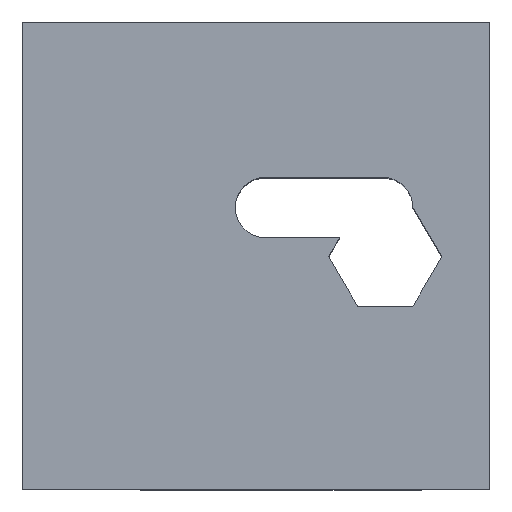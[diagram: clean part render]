
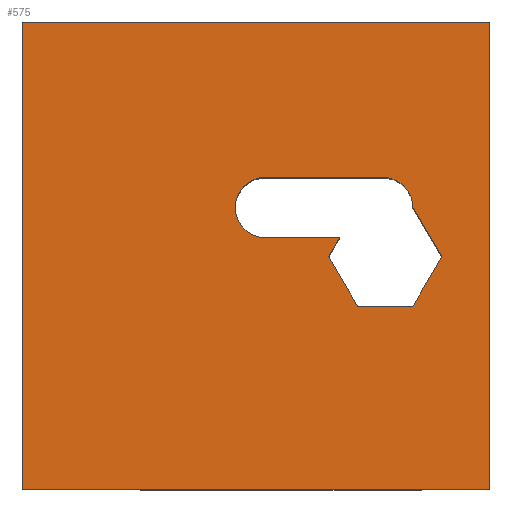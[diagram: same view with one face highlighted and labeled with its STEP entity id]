
A CAD part, top view. The second image highlights one B-rep face of the part: STEP entity #575.
In plain terms, the highlighted planar face has unit normal (0, 0, 1).
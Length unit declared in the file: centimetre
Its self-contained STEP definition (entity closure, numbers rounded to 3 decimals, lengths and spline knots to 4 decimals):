
#2 = CARTESIAN_POINT ( 'NONE',  ( 0., 1000., 1000. ) ) ;
#9 = DIRECTION ( 'NONE',  ( 0., 0., 1. ) ) ;
#11 = DIRECTION ( 'NONE',  ( 0., 1., 0. ) ) ;
#12 = DIRECTION ( 'NONE',  ( 1., 0., 0. ) ) ;
#17 = VECTOR ( 'NONE', #966, 100. ) ;
#20 = CARTESIAN_POINT ( 'NONE',  ( 717.5525, 602.9808, 1000. ) ) ;
#22 = VERTEX_POINT ( 'NONE', #287 ) ;
#31 = CARTESIAN_POINT ( 'NONE',  ( 1000., 0., 1000. ) ) ;
#41 = EDGE_LOOP ( 'NONE', ( #1133, #1185, #568, #698 ) ) ;
#49 = DIRECTION ( 'NONE',  ( 0.505, 0.863, 0. ) ) ;
#52 = EDGE_CURVE ( 'NONE', #251, #521, #955, .T. ) ;
#55 = CARTESIAN_POINT ( 'NONE',  ( 771.0114, 667.8246, 1000. ) ) ;
#115 = EDGE_CURVE ( 'NONE', #1137, #182, #1243, .T. ) ;
#128 = EDGE_CURVE ( 'NONE', #771, #1166, #527, .T. ) ;
#135 = EDGE_LOOP ( 'NONE', ( #906, #718, #593, #606, #556, #407, #1061, #1141, #1178 ) ) ;
#148 = EDGE_CURVE ( 'NONE', #1034, #1075, #1218, .T. ) ;
#152 = EDGE_CURVE ( 'NONE', #22, #1209, #604, .T. ) ;
#182 = VERTEX_POINT ( 'NONE', #416 ) ;
#202 = CARTESIAN_POINT ( 'NONE',  ( 835.8552, 602.9808, 1000. ) ) ;
#215 = DIRECTION ( 'NONE',  ( -0.509, 0.86, 0. ) ) ;
#251 = VERTEX_POINT ( 'NONE', #643 ) ;
#287 = CARTESIAN_POINT ( 'NONE',  ( 898.026, 497.979, 1000. ) ) ;
#314 = CIRCLE ( 'NONE', #400, 64.8438 ) ;
#318 = EDGE_CURVE ( 'NONE', #1207, #251, #1068, .T. ) ;
#322 = DIRECTION ( 'NONE',  ( 0., -1., 0. ) ) ;
#335 = LINE ( 'NONE', #619, #1305 ) ;
#381 = VECTOR ( 'NONE', #931, 100. ) ;
#400 = AXIS2_PLACEMENT_3D ( 'NONE', #640, #9, #835 ) ;
#406 = VECTOR ( 'NONE', #11, 100. ) ;
#407 = ORIENTED_EDGE ( 'NONE', *, *, #844, .F. ) ;
#410 = DIRECTION ( 'NONE',  ( 0., 0., 1. ) ) ;
#416 = CARTESIAN_POINT ( 'NONE',  ( 655.1186, 497.979, 1000. ) ) ;
#429 = CARTESIAN_POINT ( 'NONE',  ( 0., 1000., 1000. ) ) ;
#440 = DIRECTION ( 'NONE',  ( 1., 0., 0. ) ) ;
#480 = VECTOR ( 'NONE', #49, 100. ) ;
#515 = CARTESIAN_POINT ( 'NONE',  ( 678.9964, 538.137, 1000. ) ) ;
#521 = VERTEX_POINT ( 'NONE', #706 ) ;
#527 = LINE ( 'NONE', #429, #1313 ) ;
#536 = DIRECTION ( 'NONE',  ( -1., 0., 0. ) ) ;
#556 = ORIENTED_EDGE ( 'NONE', *, *, #115, .F. ) ;
#562 = LINE ( 'NONE', #1084, #480 ) ;
#568 = ORIENTED_EDGE ( 'NONE', *, *, #642, .T. ) ;
#575 = ADVANCED_FACE ( 'NONE', ( #689, #1107 ), #800, .T. ) ;
#588 = VERTEX_POINT ( 'NONE', #820 ) ;
#593 = ORIENTED_EDGE ( 'NONE', *, *, #148, .F. ) ;
#604 = LINE ( 'NONE', #715, #789 ) ;
#606 = ORIENTED_EDGE ( 'NONE', *, *, #992, .F. ) ;
#619 = CARTESIAN_POINT ( 'NONE',  ( 655.1186, 497.979, 1000. ) ) ;
#620 = LINE ( 'NONE', #1044, #1104 ) ;
#640 = CARTESIAN_POINT ( 'NONE',  ( 771.0114, 602.9808, 1000. ) ) ;
#641 = CARTESIAN_POINT ( 'NONE',  ( 1000., 1000., 1000. ) ) ;
#642 = EDGE_CURVE ( 'NONE', #687, #771, #827, .T. ) ;
#643 = CARTESIAN_POINT ( 'NONE',  ( 520.4061, 667.8246, 1000. ) ) ;
#677 = LINE ( 'NONE', #1201, #1000 ) ;
#684 = DIRECTION ( 'NONE',  ( 1., 0., 0. ) ) ;
#687 = VERTEX_POINT ( 'NONE', #31 ) ;
#689 = FACE_BOUND ( 'NONE', #135, .T. ) ;
#698 = ORIENTED_EDGE ( 'NONE', *, *, #128, .T. ) ;
#706 = CARTESIAN_POINT ( 'NONE',  ( 520.4061, 538.137, 1000. ) ) ;
#708 = CARTESIAN_POINT ( 'NONE',  ( 0., 1000., 1000. ) ) ;
#715 = CARTESIAN_POINT ( 'NONE',  ( 898.026, 497.979, 1000. ) ) ;
#718 = ORIENTED_EDGE ( 'NONE', *, *, #1098, .F. ) ;
#727 = EDGE_CURVE ( 'NONE', #588, #687, #620, .T. ) ;
#730 = CARTESIAN_POINT ( 'NONE',  ( 717.5525, 391.8114, 1000. ) ) ;
#759 = CARTESIAN_POINT ( 'NONE',  ( 717.5525, 391.8114, 1000. ) ) ;
#771 = VERTEX_POINT ( 'NONE', #980 ) ;
#789 = VECTOR ( 'NONE', #215, 100. ) ;
#800 = PLANE ( 'NONE',  #1338 ) ;
#820 = CARTESIAN_POINT ( 'NONE',  ( 0., 0., 1000. ) ) ;
#827 = LINE ( 'NONE', #641, #406 ) ;
#835 = DIRECTION ( 'NONE',  ( 1., 0., 0. ) ) ;
#844 = EDGE_CURVE ( 'NONE', #521, #1137, #677, .T. ) ;
#876 = VECTOR ( 'NONE', #12, 100. ) ;
#895 = EDGE_CURVE ( 'NONE', #1209, #1207, #314, .T. ) ;
#906 = ORIENTED_EDGE ( 'NONE', *, *, #152, .F. ) ;
#931 = DIRECTION ( 'NONE',  ( -0.511, -0.86, 0. ) ) ;
#955 = CIRCLE ( 'NONE', #1303, 64.8438 ) ;
#965 = EDGE_CURVE ( 'NONE', #1166, #588, #1258, .T. ) ;
#966 = DIRECTION ( 'NONE',  ( -1., 0., 0. ) ) ;
#979 = CARTESIAN_POINT ( 'NONE',  ( 835.8552, 391.8114, 1000. ) ) ;
#980 = CARTESIAN_POINT ( 'NONE',  ( 1000., 1000., 1000. ) ) ;
#987 = CARTESIAN_POINT ( 'NONE',  ( 520.4061, 602.9808, 1000. ) ) ;
#992 = EDGE_CURVE ( 'NONE', #182, #1034, #335, .T. ) ;
#1000 = VECTOR ( 'NONE', #1096, 100. ) ;
#1024 = VECTOR ( 'NONE', #322, 100. ) ;
#1034 = VERTEX_POINT ( 'NONE', #759 ) ;
#1044 = CARTESIAN_POINT ( 'NONE',  ( 0., 0., 1000. ) ) ;
#1061 = ORIENTED_EDGE ( 'NONE', *, *, #52, .F. ) ;
#1068 = LINE ( 'NONE', #55, #17 ) ;
#1075 = VERTEX_POINT ( 'NONE', #979 ) ;
#1084 = CARTESIAN_POINT ( 'NONE',  ( 835.8552, 391.8114, 1000. ) ) ;
#1096 = DIRECTION ( 'NONE',  ( 1., 0., 0. ) ) ;
#1098 = EDGE_CURVE ( 'NONE', #1075, #22, #562, .T. ) ;
#1104 = VECTOR ( 'NONE', #440, 100. ) ;
#1107 = FACE_OUTER_BOUND ( 'NONE', #41, .T. ) ;
#1126 = DIRECTION ( 'NONE',  ( 0.507, -0.862, 0. ) ) ;
#1133 = ORIENTED_EDGE ( 'NONE', *, *, #965, .T. ) ;
#1137 = VERTEX_POINT ( 'NONE', #515 ) ;
#1141 = ORIENTED_EDGE ( 'NONE', *, *, #318, .F. ) ;
#1166 = VERTEX_POINT ( 'NONE', #708 ) ;
#1178 = ORIENTED_EDGE ( 'NONE', *, *, #895, .F. ) ;
#1185 = ORIENTED_EDGE ( 'NONE', *, *, #727, .T. ) ;
#1197 = DIRECTION ( 'NONE',  ( 0., 0., 1. ) ) ;
#1201 = CARTESIAN_POINT ( 'NONE',  ( 520.4061, 538.137, 1000. ) ) ;
#1207 = VERTEX_POINT ( 'NONE', #1244 ) ;
#1208 = DIRECTION ( 'NONE',  ( 1., 0., 0. ) ) ;
#1209 = VERTEX_POINT ( 'NONE', #202 ) ;
#1218 = LINE ( 'NONE', #730, #876 ) ;
#1243 = LINE ( 'NONE', #20, #381 ) ;
#1244 = CARTESIAN_POINT ( 'NONE',  ( 771.0114, 667.8246, 1000. ) ) ;
#1258 = LINE ( 'NONE', #2, #1024 ) ;
#1303 = AXIS2_PLACEMENT_3D ( 'NONE', #987, #1197, #684 ) ;
#1305 = VECTOR ( 'NONE', #1126, 100. ) ;
#1313 = VECTOR ( 'NONE', #536, 100. ) ;
#1338 = AXIS2_PLACEMENT_3D ( 'NONE', #1340, #410, #1208 ) ;
#1340 = CARTESIAN_POINT ( 'NONE',  ( 0., 0., 1000. ) ) ;
